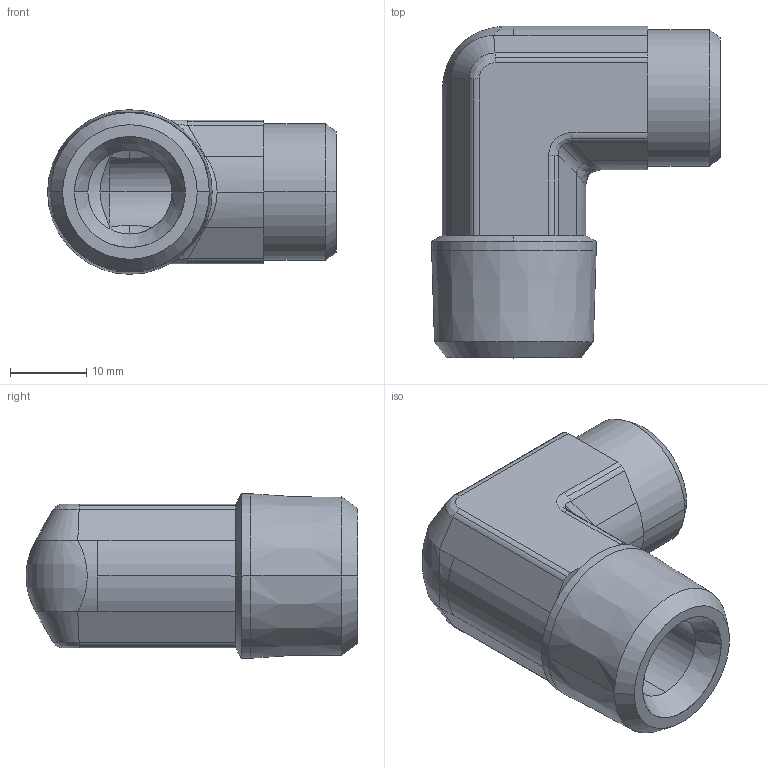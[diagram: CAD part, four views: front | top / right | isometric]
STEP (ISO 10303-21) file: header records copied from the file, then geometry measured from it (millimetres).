
FILE_DESCRIPTION((''),'2;1');
FILE_NAME('102032.stp','2007-10-30T16:35:42',(''),(''),'AutoCAD STEP 2000i','AutoCAD 2000i',', , ');
FILE_SCHEMA(('CONFIG_CONTROL_DESIGN'));
Length unit declared in the file: millimetre
Products named in the file (2): 102032.0; 3090#0
Assembly tree (1 placements, depth 2):
  102032.0
    3090#0
Bounding box: 37.76 x 43.4 x 21.52 mm (x, y, z)
Volume: 12401.7 mm3; surface area: 6153.8 mm2
Topology: 1 solids, 1 shells, 95 faces, 226 edges, 137 vertices
Faces by surface type: cylinder 40, plane 22, cone 19, bspline 14
Entity records: 3669 total; most frequent: CARTESIAN_POINT 1363, DIRECTION 483, ORIENTED_EDGE 452, EDGE_CURVE 226, AXIS2_PLACEMENT_3D 198, VERTEX_POINT 137, CIRCLE 105, EDGE_LOOP 101
